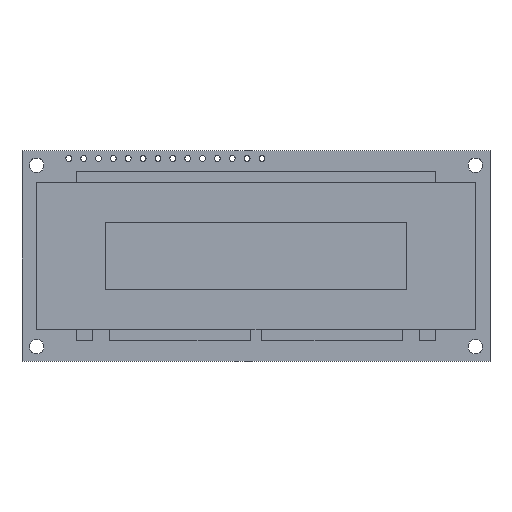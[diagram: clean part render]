
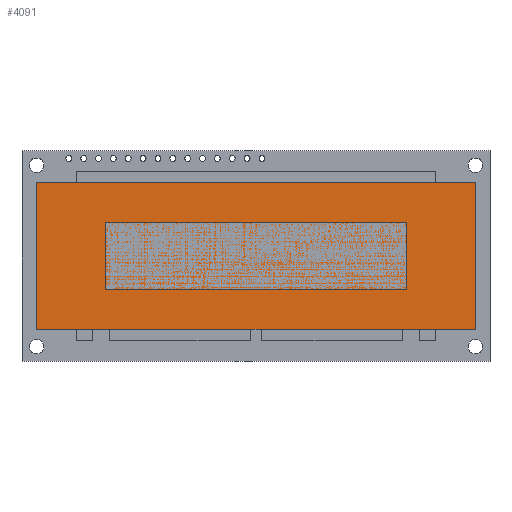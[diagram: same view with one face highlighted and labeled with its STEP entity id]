
A CAD part, top view. The second image highlights one B-rep face of the part: STEP entity #4091.
In plain terms, the highlighted planar face has unit normal (0, 0, 1).
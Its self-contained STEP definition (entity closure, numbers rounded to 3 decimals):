
#267 = DIRECTION ( 'NONE',  ( 0., 1., 0. ) ) ;
#431 = CARTESIAN_POINT ( 'NONE',  ( -37.5, 12.5, 8.6 ) ) ;
#479 = DIRECTION ( 'NONE',  ( 1., 0., 0. ) ) ;
#568 = EDGE_LOOP ( 'NONE', ( #1738, #2036, #4204, #1692 ) ) ;
#595 = CARTESIAN_POINT ( 'NONE',  ( 37.5, 12.5, 8.6 ) ) ;
#609 = EDGE_CURVE ( 'NONE', #2603, #2462, #2195, .T. ) ;
#671 = DIRECTION ( 'NONE',  ( 0., -1., 0. ) ) ;
#689 = PLANE ( 'NONE',  #910 ) ;
#709 = LINE ( 'NONE', #2678, #2379 ) ;
#910 = AXIS2_PLACEMENT_3D ( 'NONE', #1483, #939, #1839 ) ;
#939 = DIRECTION ( 'NONE',  ( 0., 0., 1. ) ) ;
#1036 = CARTESIAN_POINT ( 'NONE',  ( 37.5, -12.5, 8.6 ) ) ;
#1072 = VECTOR ( 'NONE', #2443, 1000. ) ;
#1235 = VECTOR ( 'NONE', #479, 1000. ) ;
#1313 = VECTOR ( 'NONE', #267, 1000. ) ;
#1350 = VERTEX_POINT ( 'NONE', #3175 ) ;
#1483 = CARTESIAN_POINT ( 'NONE',  ( 0., 0., 8.6 ) ) ;
#1545 = EDGE_CURVE ( 'NONE', #2462, #1350, #2851, .T. ) ;
#1692 = ORIENTED_EDGE ( 'NONE', *, *, #1720, .T. ) ;
#1720 = EDGE_CURVE ( 'NONE', #4153, #2603, #2323, .T. ) ;
#1738 = ORIENTED_EDGE ( 'NONE', *, *, #609, .T. ) ;
#1839 = DIRECTION ( 'NONE',  ( 1., 0., 0. ) ) ;
#2036 = ORIENTED_EDGE ( 'NONE', *, *, #1545, .T. ) ;
#2195 = LINE ( 'NONE', #595, #1313 ) ;
#2267 = CARTESIAN_POINT ( 'NONE',  ( 37.5, 12.5, 8.6 ) ) ;
#2323 = LINE ( 'NONE', #3611, #1235 ) ;
#2379 = VECTOR ( 'NONE', #671, 1000. ) ;
#2443 = DIRECTION ( 'NONE',  ( -1., 0., 0. ) ) ;
#2462 = VERTEX_POINT ( 'NONE', #2267 ) ;
#2603 = VERTEX_POINT ( 'NONE', #1036 ) ;
#2610 = CARTESIAN_POINT ( 'NONE',  ( -37.5, -12.5, 8.6 ) ) ;
#2678 = CARTESIAN_POINT ( 'NONE',  ( -37.5, 12.5, 8.6 ) ) ;
#2851 = LINE ( 'NONE', #431, #1072 ) ;
#3041 = FACE_OUTER_BOUND ( 'NONE', #568, .T. ) ;
#3078 = EDGE_CURVE ( 'NONE', #1350, #4153, #709, .T. ) ;
#3175 = CARTESIAN_POINT ( 'NONE',  ( -37.5, 12.5, 8.6 ) ) ;
#3611 = CARTESIAN_POINT ( 'NONE',  ( -37.5, -12.5, 8.6 ) ) ;
#4091 = ADVANCED_FACE ( 'NONE', ( #3041 ), #689, .T. ) ;
#4153 = VERTEX_POINT ( 'NONE', #2610 ) ;
#4204 = ORIENTED_EDGE ( 'NONE', *, *, #3078, .T. ) ;
